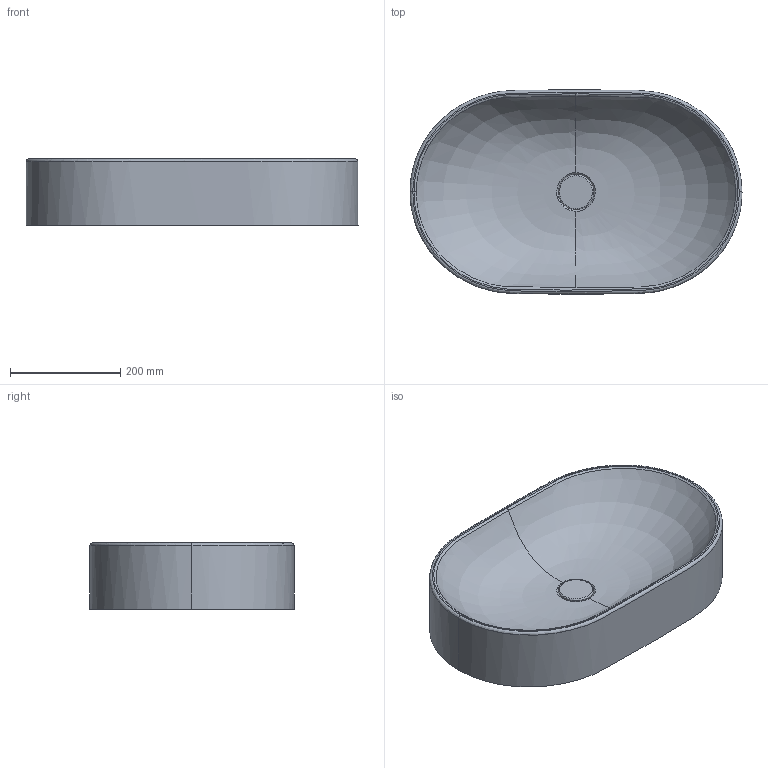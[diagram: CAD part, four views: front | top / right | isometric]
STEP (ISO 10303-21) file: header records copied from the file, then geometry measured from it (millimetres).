
FILE_DESCRIPTION(/* description */ (''),/* implementation_level */ '2;1');
FILE_NAME(/* name */ 'PIN60X~1',/* time_stamp */ '2019-09-17T11:42:13+02:00',/* author */ (''),/* organization */ (''),/* preprocessor_version */ 'ST-DEVELOPER v16.5',/* originating_system */ '',/* authorisation */ '');
FILE_SCHEMA (('AUTOMOTIVE_DESIGN'));
Length unit declared in the file: millimetre
Products named in the file (1): Document
Bounding box: 601.4 x 369.98 x 120 mm (x, y, z)
Volume: 27718.9 mm3; surface area: 627739.9 mm2
Topology: 1 solids, 2 shells, 21 faces, 46 edges, 28 vertices
Faces by surface type: bspline 18, plane 3
Entity records: 6389 total; most frequent: CARTESIAN_POINT 6090, ORIENTED_EDGE 90, EDGE_CURVE 46, VERTEX_POINT 28, ADVANCED_FACE 21, FACE_OUTER_BOUND 21, EDGE_LOOP 21, B_SPLINE_CURVE_WITH_KNOTS 20
